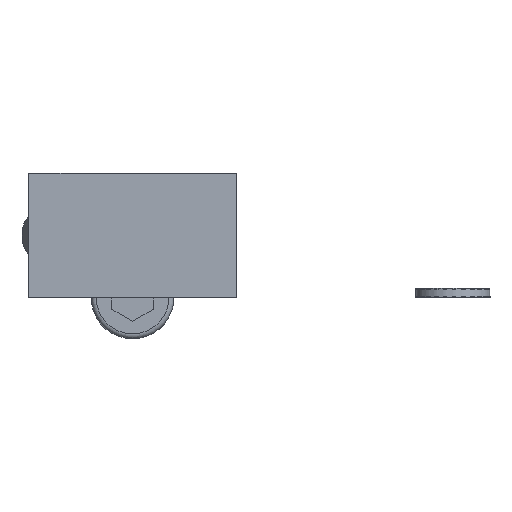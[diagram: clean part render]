
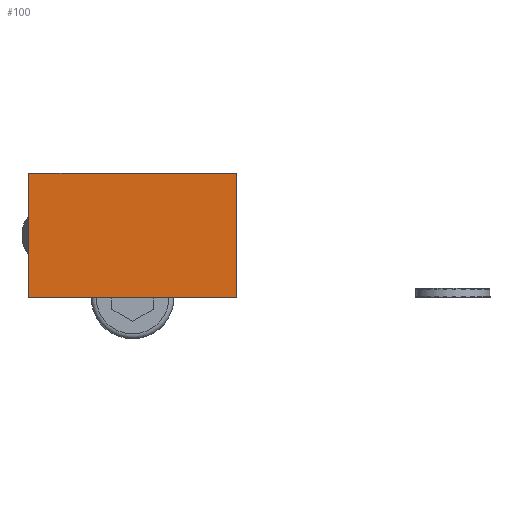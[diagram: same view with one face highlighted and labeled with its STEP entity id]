
A CAD part, left-side view. The second image highlights one B-rep face of the part: STEP entity #100.
In plain terms, the highlighted planar face has unit normal (-1, 0, 0).
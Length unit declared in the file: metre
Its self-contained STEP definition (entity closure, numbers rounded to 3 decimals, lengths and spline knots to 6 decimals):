
#100 = ADVANCED_FACE( '', ( #198 ), #199, .F. );
#198 = FACE_OUTER_BOUND( '', #310, .T. );
#199 = PLANE( '', #311 );
#310 = EDGE_LOOP( '', ( #688, #689, #690, #691 ) );
#311 = AXIS2_PLACEMENT_3D( '', #692, #693, #694 );
#688 = ORIENTED_EDGE( '', *, *, #1326, .T. );
#689 = ORIENTED_EDGE( '', *, *, #1303, .T. );
#690 = ORIENTED_EDGE( '', *, *, #1327, .T. );
#691 = ORIENTED_EDGE( '', *, *, #1328, .T. );
#692 = CARTESIAN_POINT( '', ( -0.1025, -0.015546, -0.025 ) );
#693 = DIRECTION( '', ( 1., 0., 0. ) );
#694 = DIRECTION( '', ( 0., 0., -1. ) );
#1303 = EDGE_CURVE( '', #1864, #1862, #1865, .T. );
#1326 = EDGE_CURVE( '', #1896, #1864, #1897, .T. );
#1327 = EDGE_CURVE( '', #1862, #1898, #1899, .T. );
#1328 = EDGE_CURVE( '', #1898, #1896, #1900, .T. );
#1862 = VERTEX_POINT( '', #3865 );
#1864 = VERTEX_POINT( '', #3868 );
#1865 = LINE( '', #3869, #3870 );
#1896 = VERTEX_POINT( '', #3911 );
#1897 = LINE( '', #3912, #3913 );
#1898 = VERTEX_POINT( '', #3914 );
#1899 = LINE( '', #3915, #3916 );
#1900 = LINE( '', #3917, #3918 );
#3865 = CARTESIAN_POINT( '', ( -0.1025, 0.0125, 0.015 ) );
#3868 = CARTESIAN_POINT( '', ( -0.1025, -0.0125, 0.015 ) );
#3869 = CARTESIAN_POINT( '', ( -0.1025, -0.015546, 0.015 ) );
#3870 = VECTOR( '', #4629, 1. );
#3911 = CARTESIAN_POINT( '', ( -0.1025, -0.0125, 0. ) );
#3912 = CARTESIAN_POINT( '', ( -0.1025, -0.0125, 0.015 ) );
#3913 = VECTOR( '', #4658, 1. );
#3914 = CARTESIAN_POINT( '', ( -0.1025, 0.0125, 0. ) );
#3915 = CARTESIAN_POINT( '', ( -0.1025, 0.0125, 0.015 ) );
#3916 = VECTOR( '', #4659, 1. );
#3917 = CARTESIAN_POINT( '', ( -0.1025, 0.0125, 0. ) );
#3918 = VECTOR( '', #4660, 1. );
#4629 = DIRECTION( '', ( 0., 1., 0. ) );
#4658 = DIRECTION( '', ( 0., 0., 1. ) );
#4659 = DIRECTION( '', ( 0., 0., -1. ) );
#4660 = DIRECTION( '', ( 0., -1., 0. ) );
